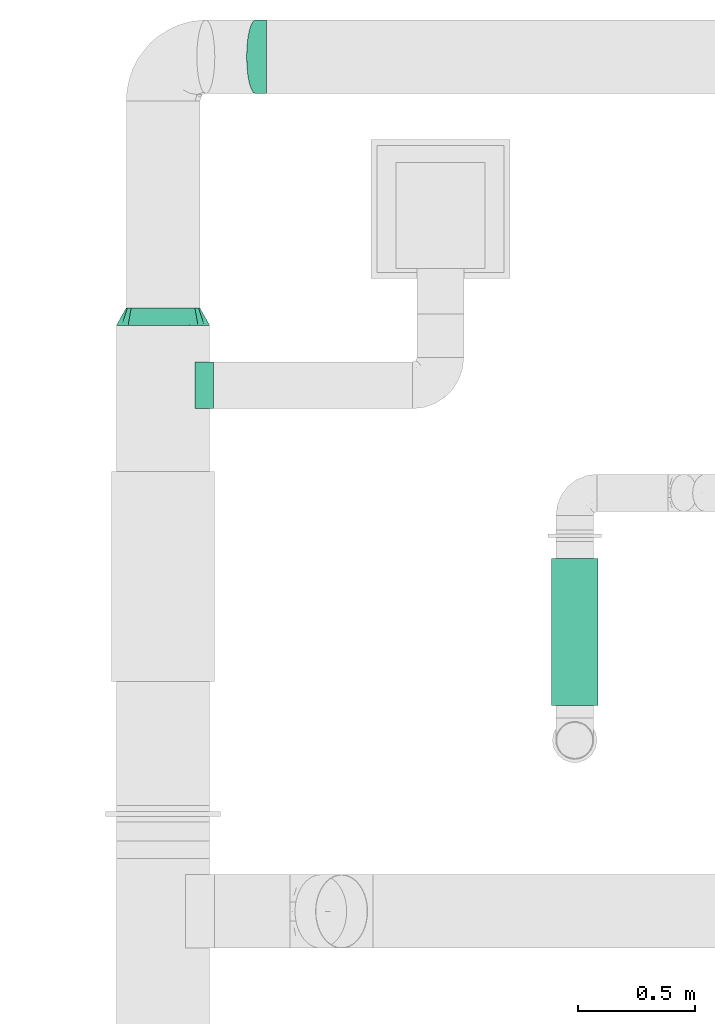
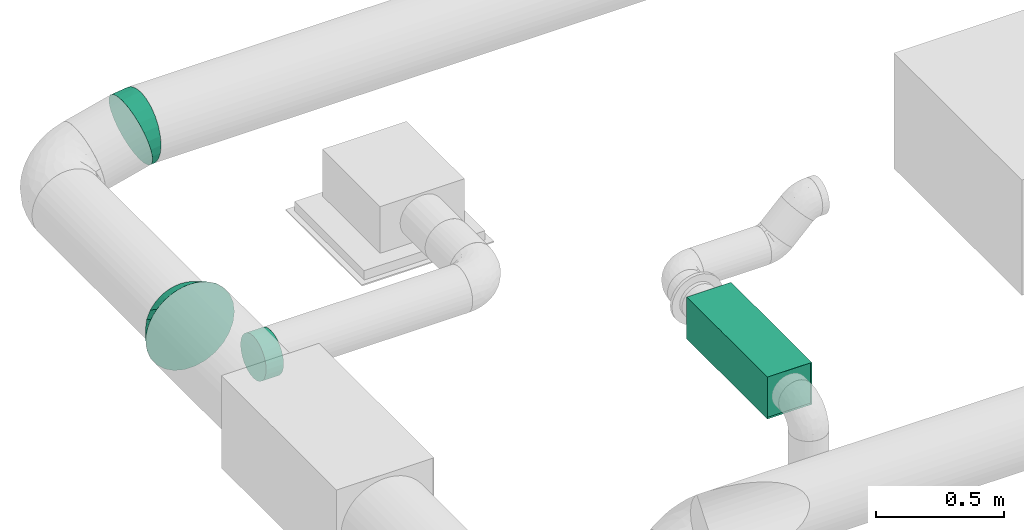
# One storey, part 11 of 16: 3 flow fittings, 1 flow treatment device.
"""IFC2X3 building model written with IfcOpenShell, lengths in millimetres."""

from ifc_helpers import new_model, entity, si_unit, converted_unit, derived_unit, direction, frame, origin_with_axes, place, context, subcontext, project, spatial, open_shell, surface_model, source, transform, mapped, type_object, element, save


model = new_model("IFC2X3")

# Units and contexts
model_context = context("Model", 3, precision=0.01, world=frame((0.0, 4.29681676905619e-09, 0.0)), true_north=direction((4.01073788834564e-13, 1.0)))
plan_context = context("Plan", 3, precision=0.01, world=frame((0.0, 4.29681676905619e-09, 0.0)), true_north=direction((4.01073788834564e-13, 1.0)))
body_context = subcontext(model_context, "Body", "Model", "MODEL_VIEW")
ifc_project = project(units=[converted_unit("PLANEANGLEUNIT", "DEGREE", entity("IfcPositiveLengthMeasure", 0.0174532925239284), si_unit("PLANEANGLEUNIT", "RADIAN"), dimensions=[0, 0, 0, 0, 0, 0, 0]), si_unit("AREAUNIT", "SQUARE_METRE"), si_unit("LENGTHUNIT", "METRE", prefix="MILLI"), si_unit("MASSUNIT", "GRAM", prefix="KILO"), si_unit("POWERUNIT", "WATT"), si_unit("PRESSUREUNIT", "PASCAL"), si_unit("FORCEUNIT", "NEWTON", prefix="KILO"), si_unit("ELECTRICVOLTAGEUNIT", "VOLT"), si_unit("ELECTRICCURRENTUNIT", "AMPERE"), si_unit("THERMODYNAMICTEMPERATUREUNIT", "DEGREE_CELSIUS"), si_unit("TIMEUNIT", "SECOND"), si_unit("VOLUMEUNIT", "CUBIC_METRE"), derived_unit("LINEARVELOCITYUNIT", [(si_unit("LENGTHUNIT", "METRE"), 1), (si_unit("TIMEUNIT", "SECOND"), -1)]), derived_unit("VOLUMETRICFLOWRATEUNIT", [(si_unit("VOLUMEUNIT", "CUBIC_METRE"), 1), (si_unit("TIMEUNIT", "SECOND"), -1)]), derived_unit("THERMALTRANSMITTANCEUNIT", [(si_unit("POWERUNIT", "WATT"), 1), (si_unit("THERMODYNAMICTEMPERATUREUNIT", "KELVIN"), -1), (si_unit("AREAUNIT", "SQUARE_METRE"), -1)]), derived_unit("SOUNDPRESSUREUNIT", [(si_unit("PRESSUREUNIT", "PASCAL"), 1)])], contexts=[model_context, plan_context])

# Site, building, storey
site_placement = place(None, frame((0.0, -4.29681676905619e-09, 0.0), z_axis=(0.0, 0.0, 1.0), x_axis=(1.0, 0.0, 0.0)))
site = spatial("IfcSite", under=ifc_project, at=site_placement, Name="ENGM", CompositionType="ELEMENT")
building_placement = place(site_placement, frame((0.0, 4.29681676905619e-09, 0.0), z_axis=(0.0, 0.0, 1.0), x_axis=(1.0, 0.0, 0.0)))
building = spatial("IfcBuilding", under=site, at=building_placement, Name="TH", CompositionType="ELEMENT")
storey_placement = place(building_placement, frame((0.0, 0.0, 210200.0), z_axis=(0.0, 0.0, 1.0), x_axis=(1.0, 0.0, 0.0)))
storey = spatial("IfcBuildingStorey", under=building, at=storey_placement, Name="Nivå F - 0,7 m", CompositionType="ELEMENT", Elevation=210200.0)

# Flow fittings
duct_fitting_type_1 = type_object("IfcDuctFittingType", Name="magicirc_elbow_short_001", PredefinedType="BEND")
shared_shape_1 = source(origin_with_axes(), body_context, "Body", "SurfaceModel", [
    surface_model("IfcShellBasedSurfaceModel", [(-23.4103, 78.75, -136.39901), (-23.4103, 40.764, -152.13332), (-23.4103, 0.0, -157.5), (-23.4103, 111.36932, -111.36932), (-23.4103, 152.13332, -40.764), (-23.4103, 136.39901, -78.75), (-23.4103, -152.13332, 40.764), (-23.4103, -152.13332, -40.764), (-23.4103, -78.75, -136.39901), (-23.4103, -111.36932, -111.36932), (-23.4103, -40.764, -152.13332), (-23.4103, -136.39901, -78.75), (-23.4103, -157.5, 0.0), (-23.4103, 111.36932, 111.36932), (-23.4103, 152.13332, 40.764), (-23.4103, 136.39901, 78.75), (-23.4103, 78.75, 136.39901), (-23.4103, -111.36932, 111.36932), (-23.4103, 40.764, 152.13332), (-23.4103, -136.39901, 78.75), (-23.4103, -78.75, 136.39901), (-23.4103, -40.764, 152.13332), (-23.4103, 0.0, 157.5), (-23.4103, 157.5, 0.0), (12.75702, 45.24383, -152.13332), (59.82102, -141.82396, -40.764), (22.70282, 5.71175, -157.5), (-4.4696, 113.71539, -111.36932), (3.48902, 82.08185, -136.39901), (-10.57646, 137.98865, -78.75), (-14.41539, 153.24746, -40.764), (41.91661, -70.65835, -136.39901), (55.98208, -126.56514, -78.75), (49.87523, -102.29188, -111.36932), (32.64861, -33.82032, -152.13332), (59.82102, -141.82396, 40.764), (61.13041, -147.02845, 0.0), (-15.72478, 158.45196, 0.0), (-14.41539, 153.24746, 40.764), (-4.4696, 113.71539, 111.36932), (-10.57646, 137.98865, 78.75), (3.48902, 82.08185, 136.39901), (12.75702, 45.24383, 152.13332), (22.70282, 5.71175, 157.5), (49.87523, -102.29188, 111.36932), (55.98208, -126.56514, 78.75), (41.91661, -70.65835, 136.39901), (32.64861, -33.82032, 152.13332), (-19.53817, 157.7389, 0.0), (19.18308, -154.87214, 0.0)], [open_shell([[[0, 1, 2]], [[3, 0, 2]], [[4, 5, 3]], [[6, 3, 2]], [[6, 2, 7]], [[8, 9, 10]], [[7, 10, 9]], [[11, 7, 9]], [[7, 2, 10]], [[12, 6, 7]], [[3, 6, 4]], [[13, 14, 4]], [[15, 14, 13]], [[16, 13, 6]], [[4, 6, 13]], [[17, 18, 16]], [[19, 17, 6]], [[17, 16, 6]], [[20, 21, 17]], [[22, 17, 21]], [[17, 22, 18]], [[23, 4, 14]], [[24, 25, 26]], [[27, 24, 28]], [[27, 29, 30]], [[24, 27, 25]], [[30, 25, 27]], [[31, 32, 33]], [[32, 31, 34]], [[26, 32, 34]], [[26, 25, 32]], [[25, 35, 36]], [[25, 30, 37]], [[38, 35, 37]], [[39, 38, 40]], [[35, 39, 41]], [[38, 39, 35]], [[41, 42, 43]], [[35, 44, 45]], [[44, 35, 46]], [[46, 43, 47]], [[43, 46, 35]], [[35, 41, 43]], [[37, 35, 25]], [[17, 44, 20]], [[17, 19, 45]], [[43, 22, 21]], [[21, 20, 46]], [[18, 22, 43]], [[35, 19, 6]], [[15, 13, 40]], [[16, 39, 13]], [[48, 14, 38]], [[48, 23, 14]], [[38, 14, 15]], [[41, 16, 18]], [[6, 12, 49]], [[46, 47, 21]], [[20, 44, 46]], [[47, 43, 21]], [[19, 35, 45]], [[17, 45, 44]], [[35, 49, 36]], [[40, 38, 15]], [[37, 48, 38]], [[41, 18, 42]], [[16, 41, 39]], [[40, 13, 39]], [[42, 18, 43]], [[6, 49, 35]], [[1, 26, 2]], [[2, 26, 10]], [[29, 3, 5]], [[3, 27, 0]], [[0, 28, 1]], [[5, 4, 30]], [[49, 12, 7]], [[25, 49, 7]], [[33, 9, 8]], [[7, 11, 25]], [[9, 32, 11]], [[31, 8, 10]], [[4, 23, 48]], [[48, 37, 30]], [[30, 29, 5]], [[0, 27, 28]], [[1, 28, 24]], [[3, 29, 27]], [[24, 26, 1]], [[31, 10, 34]], [[33, 8, 31]], [[11, 32, 25]], [[25, 36, 49]], [[32, 9, 33]], [[26, 34, 10]], [[4, 48, 30]]])]),
])
flow_fitting_1_placement = place(storey_placement, frame((896975.60802, 486337.00187, 2743.24238000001), z_axis=(0.0, -1.0, 0.0), x_axis=(-1.0, 0.0, 0.0)))
element("IfcFlowFitting", 1, at=flow_fitting_1_placement, inside=storey, type_object=duct_fitting_type_1, Name="magicirc_elbow_short_001", context=body_context, shape_type="MappedRepresentation", body=[
    mapped(shared_shape_1, transform((0.0, 0.0, 0.0), scale=1.0)),
])
duct_fitting_type_2 = type_object("IfcDuctFittingType", Name="magicirc_reduction_001", PredefinedType="TRANSITION")
shared_shape_2 = source(origin_with_axes(), body_context, "Body", "SurfaceModel", [
    surface_model("IfcShellBasedSurfaceModel", [(0.0, -78.75, 136.39901), (0.0, -40.764, 152.13332), (0.0, 0.0, 157.5), (0.0, -157.5, 0.0), (0.0, -152.13332, 40.764), (0.0, -152.13332, -40.764), (0.0, 157.5, 0.0), (0.0, 152.13332, -40.764), (0.0, 136.39901, -78.75), (0.0, -111.36932, -111.36932), (0.0, -136.39901, -78.75), (0.0, 40.764, 152.13332), (0.0, 78.75, 136.39901), (0.0, 40.764, -152.13332), (0.0, -40.764, -152.13332), (0.0, -78.75, -136.39901), (0.0, 111.36932, 111.36932), (0.0, 136.39901, 78.75), (0.0, 152.13332, 40.764), (0.0, -136.39901, 78.75), (0.0, -111.36932, 111.36932), (0.0, 111.36932, -111.36932), (0.0, 78.75, -136.39901), (0.0, 0.0, -157.5), (75.0, -70.92098, 187.00263), (75.0, 24.10734, 198.54115), (75.0, -24.10734, 198.54115), (75.0, -149.70215, 132.62391), (75.0, -113.61295, 164.59615), (75.0, 149.70215, -132.62515), (75.0, 194.18836, 47.86251), (75.0, -177.09121, 92.94402), (75.0, 113.61295, 164.59615), (75.0, 70.92098, 187.00263), (75.0, 149.70215, 132.62391), (75.0, 177.09121, 92.94402), (75.0, 200.0, -0.00062), (75.0, -200.0, -0.00062), (75.0, -194.18836, 47.86251), (75.0, -194.18836, -47.86375), (75.0, -177.09121, -92.94525), (75.0, -113.61295, -164.5974), (75.0, -149.70215, -132.62515), (75.0, 70.92098, -187.00387), (75.0, -70.92098, -187.00387), (75.0, 177.09121, -92.94525), (75.0, 194.18836, -47.86375), (75.0, -24.10734, -198.54239), (75.0, 24.10734, -198.54239), (75.0, 113.61295, -164.5974), (26.72102, -172.64191, -0.00022), (26.72102, 172.64191, -0.00022)], [open_shell([[[0, 1, 2]], [[3, 4, 5]], [[6, 7, 8]], [[5, 9, 10]], [[2, 11, 12]], [[13, 14, 15]], [[16, 17, 18]], [[2, 12, 16]], [[16, 18, 2]], [[5, 0, 2]], [[0, 19, 20]], [[0, 4, 19]], [[4, 0, 5]], [[2, 18, 5]], [[6, 8, 21]], [[15, 21, 22]], [[5, 18, 21]], [[15, 22, 13]], [[5, 21, 9]], [[15, 9, 21]], [[14, 13, 23]], [[21, 18, 6]], [[24, 25, 26]], [[27, 24, 28]], [[27, 29, 24]], [[24, 29, 30]], [[27, 31, 29]], [[25, 32, 33]], [[25, 24, 32]], [[34, 32, 35]], [[35, 32, 30]], [[24, 30, 32]], [[29, 36, 30]], [[37, 31, 38]], [[37, 39, 40]], [[29, 37, 40]], [[29, 40, 41]], [[41, 40, 42]], [[43, 41, 44]], [[36, 45, 46]], [[29, 45, 36]], [[47, 48, 43]], [[49, 29, 43]], [[41, 43, 29]], [[44, 47, 43]], [[29, 31, 37]], [[5, 40, 3]], [[10, 42, 5]], [[41, 9, 15]], [[10, 9, 41]], [[44, 15, 14]], [[40, 39, 50]], [[50, 3, 40]], [[44, 41, 15]], [[42, 10, 41]], [[42, 40, 5]], [[47, 44, 14]], [[14, 23, 47]], [[43, 13, 22]], [[23, 13, 48]], [[8, 7, 29]], [[49, 21, 8]], [[49, 22, 21]], [[45, 7, 6]], [[13, 43, 48]], [[22, 49, 43]], [[39, 37, 50]], [[45, 51, 46]], [[8, 29, 49]], [[7, 45, 29]], [[45, 6, 51]], [[51, 36, 46]], [[23, 48, 47]], [[18, 35, 6]], [[17, 34, 18]], [[32, 16, 12]], [[17, 16, 32]], [[33, 12, 11]], [[35, 30, 51]], [[51, 6, 35]], [[33, 32, 12]], [[34, 17, 32]], [[34, 35, 18]], [[25, 33, 11]], [[11, 2, 25]], [[24, 1, 0]], [[2, 1, 26]], [[19, 4, 27]], [[28, 20, 19]], [[28, 0, 20]], [[31, 4, 3]], [[1, 24, 26]], [[0, 28, 24]], [[30, 36, 51]], [[31, 50, 38]], [[19, 27, 28]], [[4, 31, 27]], [[31, 3, 50]], [[50, 37, 38]], [[2, 26, 25]]])]),
])
flow_fitting_2_placement = place(storey_placement, frame((896556.49216, 485261.47296, 2637.79993000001), z_axis=(0.0, 0.0, 1.0), x_axis=(0.0, -1.0, 0.0)))
element("IfcFlowFitting", 2, at=flow_fitting_2_placement, inside=storey, type_object=duct_fitting_type_2, Name="magicirc_reduction_001", context=body_context, shape_type="MappedRepresentation", body=[
    mapped(shared_shape_2, transform((0.0, 0.0, 0.0), scale=1.0)),
])
duct_fitting_type_3 = type_object("IfcDuctFittingType", Name="magicirc_tapoutlet_001", PredefinedType="CONNECTOR")
shared_shape_3 = source(origin_with_axes(), body_context, "Body", "SurfaceModel", [
    surface_model("IfcShellBasedSurfaceModel", [(20.0, 25.8819, 96.59259), (20.0, 0.0, 100.0), (20.0, -25.8819, 96.59259), (0.0, -50.0, 86.60254), (20.0, -50.0, 86.60254), (0.0, -25.8819, 96.59259), (0.0, -70.71068, 70.71068), (20.0, 70.71068, 70.71068), (0.0, 50.0, 86.60254), (20.0, 50.0, 86.60254), (0.0, 86.60254, 50.0), (20.0, 86.60254, 50.0), (20.0, 96.59259, 25.8819), (0.0, 96.59259, 25.8819), (20.0, 100.0, 0.0), (0.0, 70.71068, 70.71068), (0.0, 100.0, 0.0), (0.0, 70.71068, -70.71068), (20.0, 50.0, -86.60254), (0.0, 50.0, -86.60254), (20.0, -70.71068, -70.71068), (0.0, -50.0, -86.60254), (20.0, -50.0, -86.60254), (20.0, -86.60254, -50.0), (0.0, -70.71068, -70.71068), (0.0, -96.59259, -25.8819), (0.0, -86.60254, -50.0), (20.0, -96.59259, -25.8819), (20.0, 25.8819, -96.59259), (20.0, 0.0, -100.0), (20.0, 70.71068, -70.71068), (20.0, 86.60254, -50.0), (20.0, -96.59259, 25.8819), (20.0, -25.8819, -96.59259), (20.0, -100.0, 0.0), (20.0, 96.59259, -25.8819), (20.0, -70.71068, 70.71068), (20.0, -86.60254, 50.0), (0.0, 0.0, 100.0), (0.0, 25.8819, 96.59259), (0.0, 96.59259, -25.8819), (0.0, 86.60254, -50.0), (0.0, 25.8819, -96.59259), (0.0, 0.0, -100.0), (0.0, -25.8819, -96.59259), (0.0, -100.0, 0.0), (0.0, -96.59259, 25.8819), (0.0, -86.60254, 50.0), (-59.07116, 0.0, -100.0), (-59.07116, -25.8819, -96.59259), (-59.07116, 25.8819, -96.59259), (-59.07116, 96.59259, 25.8819), (-59.07116, 50.0, -86.60254), (-59.07116, 86.60254, -50.0), (-59.07116, 70.71068, -70.71068), (-59.07116, -100.0, 0.0), (-59.07116, -96.59259, 25.8819), (-59.07116, -70.71068, -70.71068), (-59.07116, -50.0, -86.60254), (-59.07116, -96.59259, -25.8819), (-59.07116, -86.60254, -50.0), (-59.07116, 96.59259, -25.8819), (-59.07116, 86.60254, 50.0), (-59.07116, 70.71068, 70.71068), (-59.07116, 50.0, 86.60254), (-59.07116, 25.8819, 96.59259), (-59.07116, 0.0, 100.0), (-59.07116, -86.60254, 50.0), (-59.07116, -70.71068, 70.71068), (-59.07116, -25.8819, 96.59259), (-59.07116, -50.0, 86.60254), (-59.07116, 100.0, 0.0)], [open_shell([[[0, 1, 2]], [[3, 4, 2]], [[5, 3, 2]], [[6, 4, 3]], [[7, 8, 9]], [[10, 11, 12]], [[13, 12, 14]], [[13, 10, 12]], [[15, 11, 10]], [[16, 13, 14]], [[17, 18, 19]], [[20, 21, 22]], [[23, 24, 20]], [[25, 26, 27]], [[24, 23, 26]], [[28, 14, 29]], [[18, 14, 28]], [[14, 30, 31]], [[14, 18, 30]], [[20, 29, 32]], [[29, 22, 33]], [[29, 20, 22]], [[23, 32, 27]], [[32, 23, 20]], [[34, 27, 32]], [[14, 31, 35]], [[12, 11, 29]], [[11, 7, 29]], [[0, 29, 9]], [[29, 7, 9]], [[29, 0, 2]], [[29, 36, 37]], [[32, 29, 37]], [[29, 4, 36]], [[2, 4, 29]], [[12, 29, 14]], [[38, 1, 0]], [[39, 0, 9]], [[38, 0, 39]], [[8, 7, 15]], [[8, 39, 9]], [[11, 15, 7]], [[16, 14, 35]], [[40, 35, 31]], [[16, 35, 40]], [[41, 30, 17]], [[41, 40, 31]], [[30, 41, 31]], [[28, 29, 42]], [[18, 28, 19]], [[43, 42, 29]], [[28, 42, 19]], [[18, 17, 30]], [[43, 29, 33]], [[44, 33, 22]], [[43, 33, 44]], [[21, 20, 24]], [[21, 44, 22]], [[26, 23, 27]], [[25, 27, 34]], [[45, 25, 34]], [[45, 34, 32]], [[46, 32, 37]], [[45, 32, 46]], [[47, 36, 6]], [[47, 46, 37]], [[36, 47, 37]], [[5, 2, 1]], [[38, 5, 1]], [[4, 6, 36]], [[31, 35, 14]], [[2, 29, 0]], [[29, 37, 32]], [[36, 37, 29]], [[36, 29, 4]], [[29, 14, 12]], [[48, 49, 50]], [[50, 51, 52]], [[53, 54, 51]], [[51, 54, 52]], [[50, 55, 56]], [[57, 55, 58]], [[50, 49, 58]], [[59, 55, 60]], [[57, 60, 55]], [[58, 55, 50]], [[61, 53, 51]], [[62, 51, 50]], [[50, 63, 62]], [[64, 50, 65]], [[64, 63, 50]], [[66, 65, 50]], [[67, 68, 50]], [[50, 56, 67]], [[69, 66, 70]], [[50, 68, 70]], [[70, 66, 50]], [[71, 61, 51]], [[66, 38, 39]], [[65, 39, 8]], [[66, 39, 65]], [[64, 15, 63]], [[64, 65, 8]], [[15, 64, 8]], [[51, 10, 13]], [[71, 13, 16]], [[63, 15, 62]], [[51, 62, 10]], [[13, 71, 51]], [[62, 15, 10]], [[71, 16, 40]], [[61, 40, 41]], [[71, 40, 61]], [[54, 41, 17]], [[53, 61, 41]], [[41, 54, 53]], [[50, 19, 42]], [[48, 42, 43]], [[54, 19, 52]], [[52, 19, 50]], [[42, 48, 50]], [[19, 54, 17]], [[48, 43, 44]], [[49, 44, 21]], [[48, 44, 49]], [[58, 24, 57]], [[58, 49, 21]], [[24, 58, 21]], [[59, 26, 25]], [[55, 25, 45]], [[57, 26, 60]], [[59, 60, 26]], [[55, 59, 25]], [[26, 57, 24]], [[55, 45, 46]], [[56, 46, 47]], [[55, 46, 56]], [[67, 6, 68]], [[67, 56, 47]], [[6, 67, 47]], [[69, 3, 5]], [[66, 5, 38]], [[70, 68, 3]], [[69, 70, 3]], [[5, 66, 69]], [[3, 68, 6]], [[54, 52, 51]], [[53, 51, 61]]])]),
])
flow_fitting_3_placement = place(storey_placement, frame((896752.49205, 484929.58493, 2598.0), z_axis=(0.0, 0.0, -1.0), x_axis=(1.0, 0.0, 0.0)))
element("IfcFlowFitting", 3, at=flow_fitting_3_placement, inside=storey, type_object=duct_fitting_type_3, Name="magicirc_tapoutlet_001", context=body_context, shape_type="MappedRepresentation", body=[
    mapped(shared_shape_3, transform((0.0, 0.0, 0.0), scale=1.0)),
])

# Flow treatment device
duct_silencer_type = type_object("IfcDuctSilencerType", Name="LKR-160-600", PredefinedType="ROUND")
shared_shape_4 = source(origin_with_axes(), body_context, "Body", "SurfaceModel", [
    surface_model("IfcShellBasedSurfaceModel", [(304.89999, 99.90001, 99.9), (304.89999, 99.90001, -99.90001), (304.89999, -99.9, -99.90001), (304.89999, -99.9, 99.9), (305.10002, -99.9, 99.9), (305.10002, -99.9, -99.90001), (305.10002, 99.90001, 99.9), (305.10002, 99.90001, -99.90001), (-305.10002, 99.90001, 99.9), (-305.10002, 99.90001, -99.90001), (-305.10002, -99.9, -99.90001), (-305.10002, -99.9, 99.9), (-304.89999, -99.9, 99.9), (-304.89999, -99.9, -99.90001), (-304.89999, 99.90001, 99.9), (-304.89999, 99.90001, -99.90001), (-315.0, 99.9, -100.0), (315.0, 99.9, -100.0), (315.0, 99.9, 100.0), (-315.0, 99.9, 100.0), (-315.0, 100.1, 100.0), (315.0, 100.1, 100.0), (315.0, 100.1, -100.0), (-315.0, 100.1, -100.0), (-315.0, -100.1, -100.0), (315.0, -100.1, -100.0), (315.0, -100.1, 100.0), (-315.0, -100.1, 100.0), (-315.0, -99.9, 100.0), (315.0, -99.9, 100.0), (315.0, -99.9, -100.0), (-315.0, -99.9, -100.0), (-315.0, -100.0, -100.1), (-315.0, 100.0, -100.1), (315.0, 100.0, -100.1), (315.0, -100.0, -100.1), (315.0, -100.0, -99.9), (315.0, 100.0, -99.9), (-315.0, -100.0, -99.9), (-315.0, 100.0, -99.9), (-315.0, -100.0, 99.9), (-315.0, 100.0, 99.9), (315.0, 100.0, 99.9), (315.0, -100.0, 99.9), (315.0, -100.0, 100.1), (315.0, 100.0, 100.1), (-315.0, -100.0, 100.1), (-315.0, 100.0, 100.1)], [open_shell([[[0, 1, 2]], [[2, 3, 0]], [[4, 5, 6]], [[7, 6, 5]], [[2, 1, 7]], [[7, 5, 2]], [[3, 2, 5]], [[5, 4, 3]], [[0, 3, 4]], [[4, 6, 0]], [[1, 0, 6]], [[6, 7, 1]], [[8, 9, 10]], [[10, 11, 8]], [[12, 13, 14]], [[15, 14, 13]], [[10, 9, 15]], [[15, 13, 10]], [[11, 10, 13]], [[13, 12, 11]], [[8, 11, 12]], [[12, 14, 8]], [[9, 8, 14]], [[14, 15, 9]], [[16, 17, 18]], [[18, 19, 16]], [[20, 21, 22]], [[22, 23, 20]], [[18, 17, 22]], [[22, 21, 18]], [[19, 18, 20]], [[21, 20, 18]], [[16, 19, 20]], [[20, 23, 16]], [[17, 16, 22]], [[23, 22, 16]], [[24, 25, 26]], [[26, 27, 24]], [[28, 29, 30]], [[30, 31, 28]], [[26, 25, 30]], [[30, 29, 26]], [[27, 26, 28]], [[29, 28, 26]], [[24, 27, 28]], [[28, 31, 24]], [[25, 24, 30]], [[31, 30, 24]], [[32, 33, 34]], [[34, 35, 32]], [[36, 37, 38]], [[39, 38, 37]], [[34, 33, 37]], [[39, 37, 33]], [[35, 34, 37]], [[37, 36, 35]], [[32, 35, 36]], [[36, 38, 32]], [[33, 32, 38]], [[38, 39, 33]], [[40, 41, 42]], [[42, 43, 40]], [[44, 45, 46]], [[47, 46, 45]], [[42, 41, 45]], [[47, 45, 41]], [[43, 42, 45]], [[45, 44, 43]], [[40, 43, 44]], [[44, 46, 40]], [[41, 40, 46]], [[46, 47, 41]]])]),
])
flow_treatment_device_placement = place(storey_placement, frame((898319.6162, 483872.5883, 2700.0), z_axis=(0.0, 0.0, 1.0), x_axis=(0.0, 1.0, 0.0)))
element("IfcFlowTreatmentDevice", 4, at=flow_treatment_device_placement, inside=storey, type_object=duct_silencer_type, Name="LKR-160-600", context=body_context, shape_type="MappedRepresentation", body=[
    mapped(shared_shape_4, transform((0.0, 0.0, 0.0), scale=1.0)),
])

save(model, "model.ifc")
